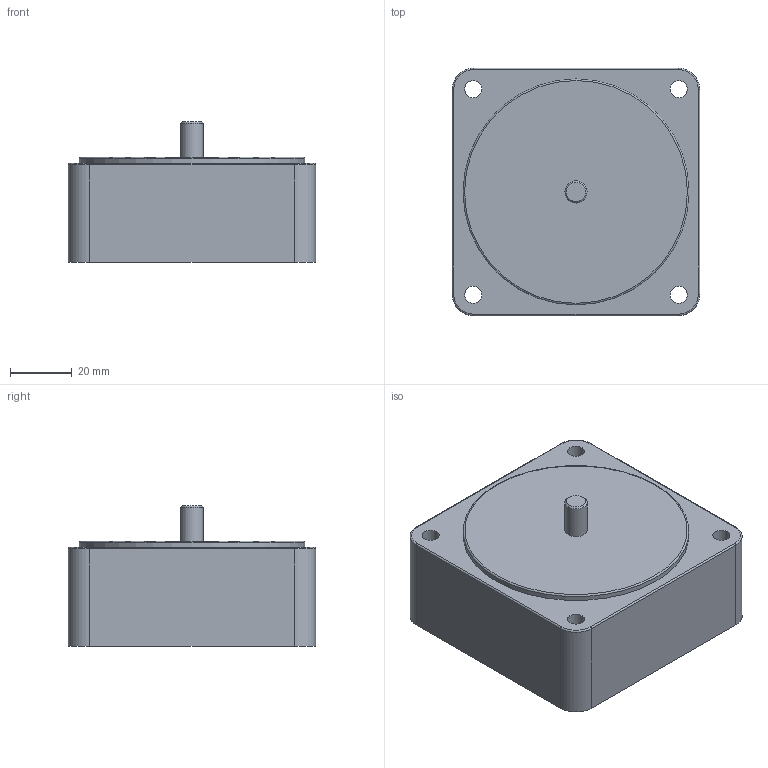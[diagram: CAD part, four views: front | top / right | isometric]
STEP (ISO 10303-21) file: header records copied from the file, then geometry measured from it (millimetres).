
FILE_DESCRIPTION((''),'2;1');
FILE_NAME('E:\2공장-도면\3D\표준형 3D(민규)\step file\감속기\K8G10BK.stp','2014-11-18T18:49:20',('AHN'),(''),'Autodesk Inventor 2012','Autodesk Inventor 2012','');
FILE_SCHEMA(('CONFIG_CONTROL_DESIGN'));
Length unit declared in the file: millimetre
Products named in the file (1): K8G10BK
Bounding box: 80 x 80 x 45.5 mm (x, y, z)
Volume: 209221.8 mm3; surface area: 25189.6 mm2
Topology: 1 solids, 1 shells, 28 faces, 62 edges, 38 vertices
Faces by surface type: cylinder 14, plane 8, torus 5, cone 1
Full cylindrical faces by diameter (mm): 5.5 x4, 7.21 x1, 73 x1
Entity records: 782 total; most frequent: DIRECTION 146, CARTESIAN_POINT 121, ORIENTED_EDGE 108, AXIS2_PLACEMENT_3D 63, EDGE_CURVE 54, EDGE_LOOP 46, VERTEX_POINT 38, CIRCLE 34
